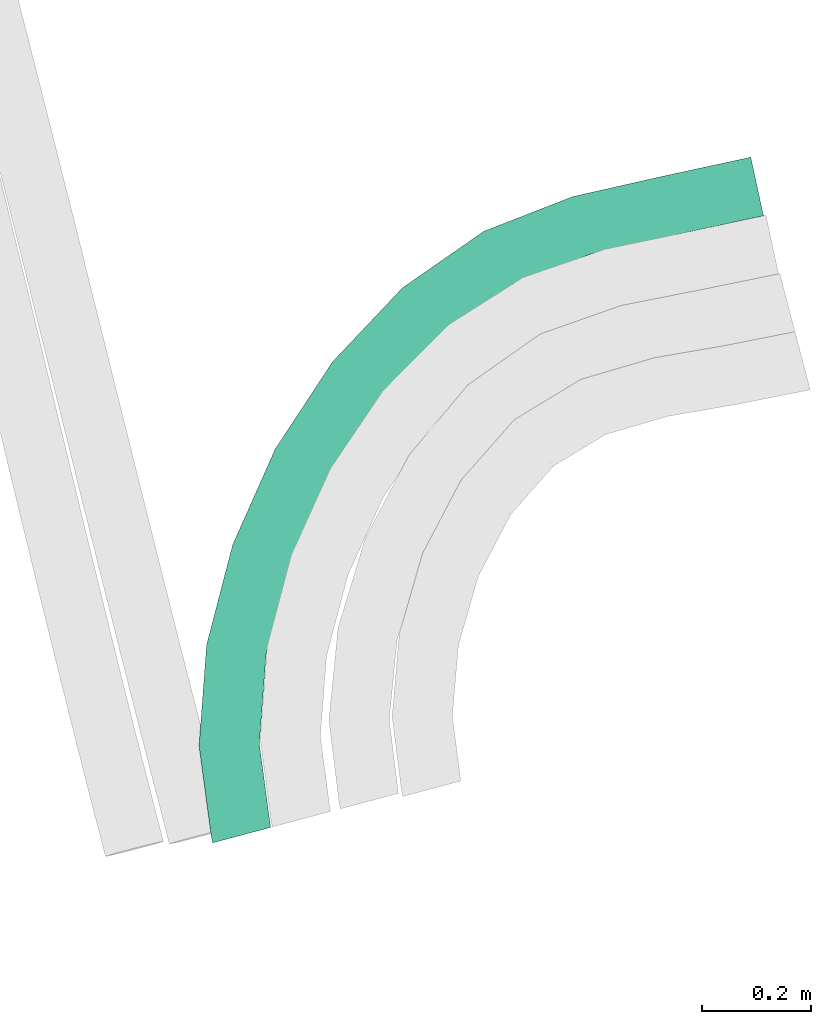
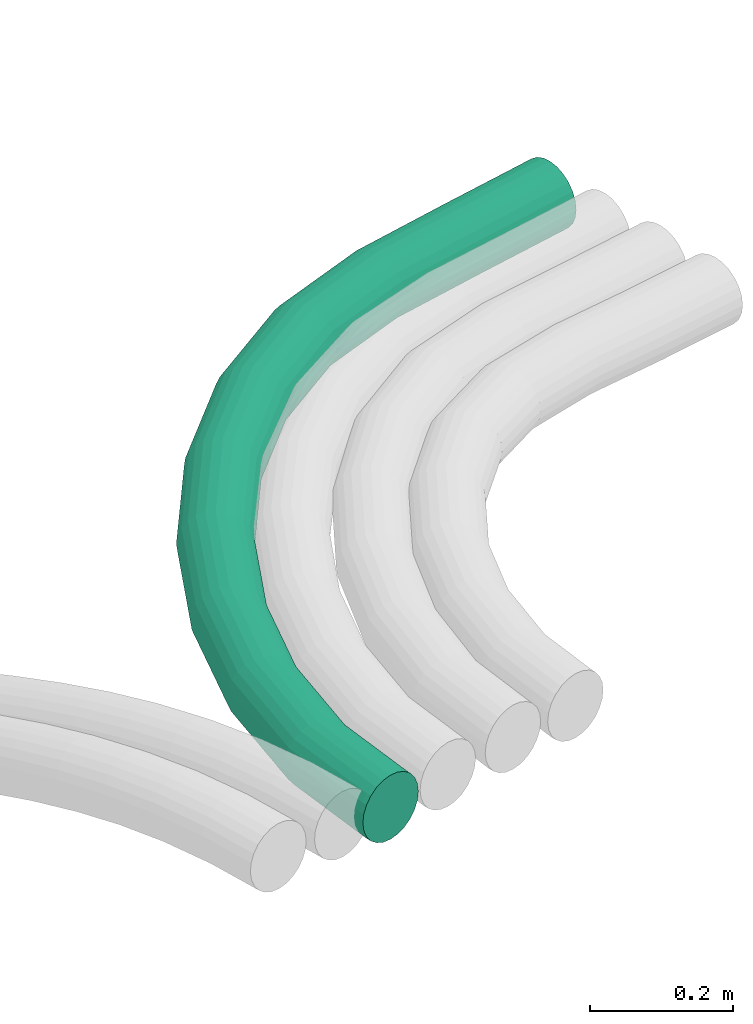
# One storey, part 2 of 6: 1 flow segment.
"""IFC2X3 building model written with IfcOpenShell, lengths in centimetres."""

from ifc_helpers import new_model, entity, si_unit, converted_unit, derived_unit, direction, frame, origin, place, context, subcontext, project, spatial, faceted_brep, type_object, element, save


model = new_model("IFC2X3")

# Units and contexts
model_context = context("Model", 3, precision=0.001, world=origin(), true_north=direction((6.12303176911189e-17, 1.0)))
body_context = subcontext(model_context, "Body", "Model", "MODEL_VIEW")
ifc_project = project(units=[si_unit("LENGTHUNIT", "METRE", prefix="CENTI"), si_unit("AREAUNIT", "SQUARE_METRE"), si_unit("VOLUMEUNIT", "CUBIC_METRE"), converted_unit("PLANEANGLEUNIT", "DEGREE", entity("IfcRatioMeasure", 0.0174532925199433), si_unit("PLANEANGLEUNIT", "RADIAN"), dimensions=[0, 0, 0, 0, 0, 0, 0]), si_unit("MASSUNIT", "GRAM", prefix="KILO"), derived_unit("MASSDENSITYUNIT", [(si_unit("MASSUNIT", "GRAM", prefix="KILO"), 1), (si_unit("LENGTHUNIT", "METRE"), -3)]), si_unit("TIMEUNIT", "SECOND"), si_unit("FREQUENCYUNIT", "HERTZ"), si_unit("THERMODYNAMICTEMPERATUREUNIT", "DEGREE_CELSIUS"), derived_unit("THERMALTRANSMITTANCEUNIT", [(si_unit("MASSUNIT", "GRAM", prefix="KILO"), 1), (si_unit("THERMODYNAMICTEMPERATUREUNIT", "KELVIN"), -1), (si_unit("TIMEUNIT", "SECOND"), -3)]), derived_unit("VOLUMETRICFLOWRATEUNIT", [(si_unit("LENGTHUNIT", "METRE"), 3), (si_unit("TIMEUNIT", "SECOND"), -1)]), si_unit("ELECTRICCURRENTUNIT", "AMPERE"), si_unit("ELECTRICVOLTAGEUNIT", "VOLT"), si_unit("POWERUNIT", "WATT"), si_unit("FORCEUNIT", "NEWTON"), si_unit("ILLUMINANCEUNIT", "LUX"), si_unit("LUMINOUSFLUXUNIT", "LUMEN"), si_unit("LUMINOUSINTENSITYUNIT", "CANDELA"), derived_unit("USERDEFINED", [(si_unit("MASSUNIT", "GRAM", prefix="KILO"), -1), (si_unit("LENGTHUNIT", "METRE"), -2), (si_unit("TIMEUNIT", "SECOND"), 3), (si_unit("LUMINOUSFLUXUNIT", "LUMEN"), 1)]), derived_unit("LINEARVELOCITYUNIT", [(si_unit("LENGTHUNIT", "METRE"), 1), (si_unit("TIMEUNIT", "SECOND"), -1)]), si_unit("PRESSUREUNIT", "PASCAL"), derived_unit("USERDEFINED", [(si_unit("LENGTHUNIT", "METRE"), -2), (si_unit("MASSUNIT", "GRAM", prefix="KILO"), 1), (si_unit("TIMEUNIT", "SECOND"), -2)])], contexts=[model_context])

# Site, building, storey
site_placement = place(None, origin())
site = spatial("IfcSite", under=ifc_project, at=site_placement, Name="Default", CompositionType="ELEMENT")
building_placement = place(site_placement, origin())
building = spatial("IfcBuilding", under=site, at=building_placement, Name="CAGE 03", CompositionType="ELEMENT")
storey_placement = place(building_placement, frame((0.0, 0.0, -23.0)))
storey = spatial("IfcBuildingStorey", under=building, at=storey_placement, Name="+3.77", CompositionType="ELEMENT", Elevation=-23.0000000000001)

# Flow segment
duct_segment_type = type_object("IfcDuctSegmentType", Name="Gaine flexible circulaire:Flex - Round", PredefinedType="FLEXIBLESEGMENT")
flow_segment_placement = place(storey_placement, frame((11579.2379252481, 3539.1954442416, -79.1595272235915)))
element("IfcFlowSegment", 1, at=flow_segment_placement, inside=storey, type_object=duct_segment_type, Name="Gaine flexible circulaire:Flex - Round", ObjectType="Gaine flexible circulaire:Flex - Round", context=body_context, shape_type="Brep", body=[
    faceted_brep([(4.22902549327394, 0.573686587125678, 9.54861452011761), (3.38435360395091, 0.348971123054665, 8.4095272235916), (2.85337065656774, 0.207709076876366, 7.08303197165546), (2.67226226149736, 0.15952722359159, 5.6595272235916), (2.85337065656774, 0.207709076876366, 4.23602247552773), (3.38435360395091, 0.348971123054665, 2.9095272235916), (4.22902549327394, 0.573686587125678, 1.77043992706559), (5.32982333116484, 0.866541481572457, 0.896387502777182), (6.61172956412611, 1.20757822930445, 0.346935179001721), (7.98738440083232, 1.57355573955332, 0.159527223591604), (9.36303923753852, 1.9395332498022, 0.346935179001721), (10.6449454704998, 2.28056999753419, 0.896387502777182), (11.7457433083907, 2.57342489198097, 1.77043992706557), (12.5904151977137, 2.79814035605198, 2.90952722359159), (13.1213981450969, 2.93940240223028, 4.23602247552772), (13.3025065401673, 2.98758425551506, 5.65952722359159), (13.1213981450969, 2.93940240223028, 7.08303197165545), (12.5904151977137, 2.79814035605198, 8.40952722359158), (11.7457433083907, 2.57342489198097, 9.5486145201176), (10.6449454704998, 2.28056999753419, 10.422666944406), (9.36303923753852, 1.9395332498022, 10.9721192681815), (7.98738440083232, 1.57355573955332, 11.1595272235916), (6.61172956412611, 1.20757822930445, 10.9721192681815), (5.32982333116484, 0.866541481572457, 10.422666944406), (2.43871392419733, 1.03740056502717, 5.65952722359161), (2.62286935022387, 1.07412908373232, 4.2360224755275), (3.16278574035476, 1.1818116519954, 2.90952722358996), (4.02166868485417, 1.35310988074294, 1.77043992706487), (5.14098673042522, 1.57635007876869, 0.896387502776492), (6.44446020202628, 1.83631879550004, 0.346935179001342), (7.84325953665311, 2.11529959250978, 0.159527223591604), (9.24205887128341, 2.39428038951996, 0.346935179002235), (10.5455323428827, 2.65424910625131, 0.896387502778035), (11.6648503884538, 2.87748930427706, 1.77043992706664), (13.0636497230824, 3.15647010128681, 4.23602247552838), (13.2478051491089, 3.19319861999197, 5.65952722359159), (12.5237333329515, 3.04878753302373, 2.90952722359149), (12.5237333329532, 3.04878753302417, 8.40952722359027), (11.6648503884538, 2.87748930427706, 9.54861452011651), (13.0636497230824, 3.15647010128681, 7.08303197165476), (9.24205887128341, 2.39428038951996, 10.9721192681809), (7.84325953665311, 2.11529959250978, 11.1595272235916), (10.5455323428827, 2.65424910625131, 10.4226669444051), (6.44446020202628, 1.83631879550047, 10.9721192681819), (5.14098673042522, 1.57635007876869, 10.4226669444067), (4.02166868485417, 1.35310988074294, 9.54861452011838), (3.16278574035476, 1.1818116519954, 8.40952722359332), (2.62286935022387, 1.07412908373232, 7.08303197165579), (101.275036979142, 125.828629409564, 5.65952722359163), (101.31472021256, 125.645471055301, 7.08303197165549), (101.431065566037, 125.10847793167, 8.40952722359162), (101.616144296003, 124.254245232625, 9.54861452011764), (101.857343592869, 123.140987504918, 10.422666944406), (102.138226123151, 121.844571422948, 10.9721192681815), (102.439650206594, 120.453345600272, 11.1595272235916), (102.741074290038, 119.062119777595, 10.9721192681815), (103.02195682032, 117.765703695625, 10.422666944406), (103.263156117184, 116.652445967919, 9.54861452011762), (103.44823484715, 115.798213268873, 8.40952722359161), (103.564580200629, 115.261220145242, 7.08303197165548), (103.604263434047, 115.078061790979, 5.65952722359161), (103.564580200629, 115.261220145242, 4.23602247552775), (103.44823484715, 115.798213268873, 2.90952722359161), (103.263156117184, 116.652445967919, 1.7704399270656), (103.02195682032, 117.765703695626, 0.896387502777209), (102.741074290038, 119.062119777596, 0.346935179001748), (102.439650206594, 120.453345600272, 0.159527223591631), (102.138226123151, 121.844571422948, 0.346935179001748), (101.857343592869, 123.140987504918, 0.896387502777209), (101.616144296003, 124.254245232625, 1.77043992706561), (101.431065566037, 125.10847793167, 2.90952722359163), (101.31472021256, 125.645471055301, 4.23602247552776), (0.15952722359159, 17.9822303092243, 5.65952722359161), (0.347878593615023, 17.9877636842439, 4.23602247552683), (0.90009686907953, 18.0039867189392, 2.90952722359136), (1.7785492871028, 18.0297938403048, 1.77043992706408), (2.923370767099, 18.0634263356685, 0.896387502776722), (4.25654361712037, 18.1025922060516, 0.346935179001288), (5.68721431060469, 18.1446223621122, 0.159527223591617), (7.11788500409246, 18.1866525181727, 0.346935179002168), (8.4510578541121, 18.2258183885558, 0.89638750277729), (9.59587933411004, 18.2594508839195, 1.77043992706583), (10.4743317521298, 18.2852580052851, 2.90952722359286), (11.0265500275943, 18.30148103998, 4.23602247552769), (11.2149013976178, 18.3070144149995, 5.6595272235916), (11.0265500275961, 18.30148103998, 7.08303197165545), (10.4743317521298, 18.2852580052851, 8.4095272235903), (9.59587933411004, 18.2594508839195, 9.54861452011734), (7.11788500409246, 18.1866525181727, 10.9721192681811), (5.68721431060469, 18.1446223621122, 11.1595272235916), (8.45105785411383, 18.2258183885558, 10.422666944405), (4.25654361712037, 18.1025922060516, 10.9721192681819), (2.923370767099, 18.0634263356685, 10.4226669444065), (1.7785492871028, 18.0297938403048, 9.54861452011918), (0.90009686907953, 18.0039867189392, 8.40952722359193), (0.347878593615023, 17.9877636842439, 7.08303197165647), (1.54788863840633, 36.4676848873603, 5.65952722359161), (1.73350290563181, 36.4367748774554, 4.23602247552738), (2.27769640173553, 36.3461513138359, 2.90952722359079), (3.14338323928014, 36.2019900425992, 1.77043992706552), (4.27156829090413, 36.0141154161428, 0.896387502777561), (5.5853676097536, 35.7953307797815, 0.346935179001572), (6.99524794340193, 35.5605459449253, 0.159527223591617), (8.40512827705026, 35.325761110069, 0.346935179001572), (9.71892759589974, 35.1069764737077, 0.896387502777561), (10.8471126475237, 34.9191018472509, 1.77043992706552), (11.7127994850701, 34.7749405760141, 2.90952722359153), (12.2569929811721, 34.6843170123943, 4.23602247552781), (12.4426072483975, 34.6534070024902, 5.6595272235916), (12.2569929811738, 34.6843170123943, 7.08303197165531), (11.7127994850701, 34.7749405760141, 8.40952722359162), (10.8471126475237, 34.9191018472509, 9.54861452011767), (8.40512827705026, 35.325761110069, 10.9721192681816), (6.99524794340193, 35.5605459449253, 11.1595272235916), (9.71892759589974, 35.1069764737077, 10.4226669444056), (5.5853676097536, 35.7953307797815, 10.9721192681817), (4.27156829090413, 36.0141154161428, 10.4226669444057), (3.14338323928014, 36.2019900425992, 9.54861452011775), (2.27769640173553, 36.3461513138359, 8.40952722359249), (1.73350290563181, 36.4367748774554, 7.0830319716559), (6.34002175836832, 54.846509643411, 5.65952722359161), (6.51749026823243, 54.7843589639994, 4.23602247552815), (7.037801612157, 54.6021423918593, 2.90952722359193), (7.86549743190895, 54.3122776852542, 1.77043992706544), (8.94417162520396, 53.9345186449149, 0.896387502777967), (10.2003143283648, 53.4946089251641, 0.346935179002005), (11.5483214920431, 53.022527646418, 0.159527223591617), (12.8963286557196, 52.5504463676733, 0.346935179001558), (14.1524713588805, 52.1105366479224, 0.896387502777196), (15.2311455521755, 51.7327776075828, 1.77043992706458), (16.0588413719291, 51.4429129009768, 2.90952722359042), (16.5791527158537, 51.2606963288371, 4.23602247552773), (16.7566212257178, 51.1985456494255, 5.6595272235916), (16.5791527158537, 51.2606963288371, 7.0830319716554), (16.0588413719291, 51.4429129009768, 8.40952722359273), (15.2311455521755, 51.7327776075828, 9.54861452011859), (12.8963286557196, 52.5504463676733, 10.9721192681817), (11.5483214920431, 53.022527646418, 11.1595272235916), (14.1524713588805, 52.1105366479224, 10.422666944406), (10.2003143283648, 53.4946089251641, 10.9721192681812), (8.94417162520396, 53.9345186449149, 10.4226669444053), (7.86549743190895, 54.3122776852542, 9.54861452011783), (7.037801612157, 54.6021423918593, 8.40952722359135), (6.51749026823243, 54.7843589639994, 7.08303197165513), (14.1402244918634, 72.3766171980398, 5.65952722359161), (14.30524730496, 72.2864961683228, 4.23602247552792), (14.789069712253, 72.0222746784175, 2.90952722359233), (15.5587200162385, 71.6019589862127, 1.77043992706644), (16.5617478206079, 71.0541929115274, 0.896387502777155), (17.7297984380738, 70.4163058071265, 0.346935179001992), (18.9832711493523, 69.7317686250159, 0.159527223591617), (20.2367438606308, 69.0472314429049, 0.346935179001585), (21.4047944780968, 68.4093443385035, 0.896387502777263), (22.4078222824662, 67.8615782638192, 1.77043992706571), (23.1774725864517, 67.4412625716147, 2.90952722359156), (23.6612949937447, 67.177041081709, 4.23602247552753), (23.8263178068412, 67.0869200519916, 5.6595272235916), (23.6612949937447, 67.177041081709, 7.08303197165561), (23.1774725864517, 67.4412625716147, 8.4095272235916), (22.4078222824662, 67.8615782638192, 9.54861452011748), (20.2367438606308, 69.0472314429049, 10.9721192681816), (18.9832711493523, 69.7317686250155, 11.1595272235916), (21.4047944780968, 68.4093443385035, 10.4226669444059), (17.7297984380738, 70.4163058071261, 10.9721192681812), (16.5617478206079, 71.0541929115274, 10.4226669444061), (15.5587200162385, 71.6019589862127, 9.54861452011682), (14.789069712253, 72.0222746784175, 8.40952722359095), (14.30524730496, 72.2864961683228, 7.08303197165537), (24.6064278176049, 88.3148302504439, 5.65952722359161), (24.7539862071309, 88.1981139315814, 4.23602247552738), (25.1866055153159, 87.8559189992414, 2.90952722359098), (25.8748034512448, 87.3115654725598, 1.7704399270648), (26.7716804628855, 86.6021501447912, 0.896387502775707), (27.8161158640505, 85.7760184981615, 0.346935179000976), (28.9369331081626, 84.8894700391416, 0.159527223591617), (30.0577503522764, 84.00292158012, 0.346935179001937), (31.1021857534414, 83.1767899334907, 0.896387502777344), (31.9990627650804, 82.467374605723, 1.77043992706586), (32.6872607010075, 81.9230210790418, 2.9095272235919), (33.1198800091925, 81.5808261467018, 4.2360224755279), (33.2674383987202, 81.4641098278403, 5.6595272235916), (33.1198800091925, 81.5808261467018, 7.08303197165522), (32.6872607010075, 81.9230210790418, 8.40952722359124), (31.9990627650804, 82.467374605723, 9.54861452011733), (30.0577503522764, 84.00292158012, 10.9721192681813), (28.9369331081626, 84.8894700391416, 11.1595272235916), (31.1021857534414, 83.1767899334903, 10.4226669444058), (27.8161158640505, 85.7760184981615, 10.9721192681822), (26.7716804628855, 86.6021501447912, 10.4226669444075), (25.8748034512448, 87.3115654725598, 9.54861452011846), (25.1866055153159, 87.8559189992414, 8.40952722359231), (24.7539862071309, 88.1981139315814, 7.0830319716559), (37.440640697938, 101.888995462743, 5.65952722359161), (37.5634952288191, 101.746150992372, 4.23602247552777), (37.9236864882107, 101.327352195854, 2.90952722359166), (38.4966680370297, 100.661139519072, 1.7704399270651), (39.243392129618, 99.7929142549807, 0.896387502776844), (40.1129707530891, 98.7818445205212, 0.346935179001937), (41.046143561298, 97.6968330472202, 0.159527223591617), (41.9793163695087, 96.6118215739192, 0.346935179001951), (42.8488949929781, 95.6007518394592, 0.896387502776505), (43.595619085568, 94.7325265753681, 1.77043992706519), (44.1686006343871, 94.0663138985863, 2.90952722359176), (44.5287918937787, 93.647515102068, 4.236022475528), (44.6516464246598, 93.5046706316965, 5.6595272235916), (44.5287918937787, 93.647515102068, 7.08303197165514), (44.1686006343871, 94.0663138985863, 8.40952722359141), (43.595619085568, 94.7325265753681, 9.54861452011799), (41.9793163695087, 96.6118215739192, 10.9721192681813), (41.046143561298, 97.6968330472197, 11.1595272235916), (42.8488949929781, 95.6007518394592, 10.4226669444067), (40.1129707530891, 98.7818445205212, 10.9721192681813), (39.243392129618, 99.7929142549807, 10.4226669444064), (38.4966680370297, 100.661139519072, 9.54861452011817), (37.9236864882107, 101.327352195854, 8.40952722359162), (37.5634952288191, 101.746150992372, 7.08303197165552), (52.343145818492, 112.242610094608, 5.65952722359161), (52.4318951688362, 112.076070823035, 4.2360224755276), (52.6920950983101, 111.587802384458, 2.90952722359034), (53.1060134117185, 110.811079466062, 1.77043992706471), (53.6454422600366, 109.798834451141, 0.896387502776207), (54.2736204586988, 108.620050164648, 0.346935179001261), (54.9477387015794, 107.355058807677, 0.159527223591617), (55.6218569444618, 106.090067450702, 0.34693517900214), (56.250035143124, 104.91128316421, 0.89638750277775), (56.7894639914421, 103.89903814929, 1.77043992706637), (57.2033823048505, 103.122315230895, 2.90952722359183), (57.4635822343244, 102.634046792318, 4.23602247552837), (57.5523315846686, 102.467507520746, 5.6595272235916), (57.4635822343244, 102.634046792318, 7.08303197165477), (57.2033823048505, 103.122315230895, 8.40952722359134), (56.7894639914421, 103.899038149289, 9.54861452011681), (55.6218569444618, 106.090067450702, 10.9721192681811), (54.9477387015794, 107.355058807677, 11.1595272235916), (56.250035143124, 104.91128316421, 10.4226669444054), (54.2736204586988, 108.620050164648, 10.972119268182), (53.6454422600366, 109.798834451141, 10.422666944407), (53.1060134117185, 110.811079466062, 9.54861452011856), (52.6920950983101, 111.587802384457, 8.40952722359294), (52.4318951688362, 112.076070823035, 7.08303197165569), (68.6315996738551, 118.598687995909, 5.65952722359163), (68.6866441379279, 118.418996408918, 4.236022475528), (68.8480263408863, 117.892167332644, 2.90952722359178), (69.1047483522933, 117.054103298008, 1.77043992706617), (69.4393149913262, 115.961916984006, 0.89638750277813), (69.8289260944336, 114.690039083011, 0.346935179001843), (70.247030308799, 113.3251459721, 0.159527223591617), (70.6651345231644, 111.960252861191, 0.346935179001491), (71.0547456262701, 110.688374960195, 0.896387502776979), (71.389312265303, 109.596188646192, 1.77043992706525), (71.64603427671, 108.758124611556, 2.90952722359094), (71.8074164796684, 108.231295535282, 4.23602247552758), (71.8624609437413, 108.05160394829, 5.6595272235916), (71.8074164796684, 108.231295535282, 7.08303197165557), (71.64603427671, 108.758124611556, 8.40952722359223), (71.389312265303, 109.596188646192, 9.54861452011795), (70.6651345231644, 111.960252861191, 10.9721192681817), (70.247030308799, 113.3251459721, 11.1595272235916), (71.0547456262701, 110.688374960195, 10.4226669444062), (69.8289260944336, 114.690039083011, 10.9721192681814), (69.4393149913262, 115.961916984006, 10.4226669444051), (69.1047483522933, 117.054103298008, 9.54861452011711), (68.8480263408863, 117.892167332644, 8.40952722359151), (68.6866441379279, 118.418996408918, 7.08303197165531), (85.1306145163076, 122.330766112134, 5.65952722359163), (85.1711305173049, 122.147788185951, 4.23602247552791), (85.2899174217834, 121.611324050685, 2.90952722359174), (85.4788800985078, 120.757932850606, 1.7704399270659), (85.7251410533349, 119.645771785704, 0.89638750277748), (86.0119180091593, 118.350632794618, 0.346935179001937), (86.319667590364, 116.960777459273, 0.159527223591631), (86.6274171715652, 115.570922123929, 0.34693517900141), (86.9141941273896, 114.275783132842, 0.896387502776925), (87.1604550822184, 113.16362206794, 1.77043992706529), (87.3494177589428, 112.31023086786, 2.90952722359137), (87.4682046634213, 111.773766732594, 4.23602247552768), (87.5087206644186, 111.590788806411, 5.65952722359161), (87.4682046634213, 111.773766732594, 7.08303197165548), (87.3494177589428, 112.31023086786, 8.40952722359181), (87.1604550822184, 113.163622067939, 9.54861452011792), (86.6274171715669, 115.570922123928, 10.9721192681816), (86.319667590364, 116.960777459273, 11.1595272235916), (86.9141941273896, 114.275783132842, 10.4226669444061), (86.0119180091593, 118.350632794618, 10.9721192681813), (85.7251410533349, 119.645771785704, 10.4226669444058), (85.4788800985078, 120.757932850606, 9.54861452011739), (85.2899174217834, 121.611324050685, 8.40952722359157), (85.1711305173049, 122.147788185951, 7.08303197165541)], [[[0, 1, 2, 3, 4, 5, 6, 7, 8, 9, 10, 11, 12, 13, 14, 15, 16, 17, 18, 19, 20, 21, 22, 23]], [[3, 24, 25, 4]], [[4, 25, 26, 5]], [[5, 26, 27, 6]], [[7, 28, 29, 8]], [[8, 29, 30, 9]], [[6, 27, 28, 7]], [[31, 32, 11, 10]], [[30, 31, 10, 9]], [[11, 32, 33, 12]], [[34, 35, 15, 14]], [[36, 34, 14, 13]], [[12, 33, 36, 13]], [[17, 37, 38, 18]], [[39, 37, 17, 16]], [[15, 35, 39, 16]], [[40, 41, 21, 20]], [[42, 40, 20, 19]], [[38, 42, 19, 18]], [[23, 22, 43, 44]], [[0, 23, 44, 45]], [[21, 41, 43, 22]], [[2, 1, 46, 47]], [[3, 2, 47, 24]], [[45, 46, 1, 0]], [[48, 49, 50, 51, 52, 53, 54, 55, 56, 57, 58, 59, 60, 61, 62, 63, 64, 65, 66, 67, 68, 69, 70, 71]], [[24, 72, 73, 25]], [[25, 73, 74, 26]], [[26, 74, 75, 27]], [[27, 75, 76, 28]], [[28, 76, 77, 29]], [[78, 30, 29, 77]], [[79, 80, 32, 31]], [[78, 79, 31, 30]], [[81, 33, 32, 80]], [[82, 83, 34, 36]], [[82, 36, 33, 81]], [[84, 35, 34, 83]], [[85, 86, 37, 39]], [[84, 85, 39, 35]], [[38, 37, 86, 87]], [[88, 89, 41, 40]], [[90, 88, 40, 42]], [[87, 90, 42, 38]], [[43, 41, 89, 91]], [[44, 43, 91, 92]], [[45, 44, 92, 93]], [[47, 46, 94, 95]], [[24, 47, 95, 72]], [[93, 94, 46, 45]], [[73, 72, 96, 97]], [[74, 73, 97, 98]], [[98, 99, 75, 74]], [[76, 75, 99, 100]], [[77, 76, 100, 101]], [[78, 77, 101, 102]], [[103, 104, 80, 79]], [[102, 103, 79, 78]], [[81, 80, 104, 105]], [[106, 107, 83, 82]], [[105, 106, 82, 81]], [[84, 83, 107, 108]], [[109, 110, 86, 85]], [[108, 109, 85, 84]], [[111, 87, 86, 110]], [[112, 113, 89, 88]], [[114, 112, 88, 90]], [[114, 90, 87, 111]], [[89, 113, 115, 91]], [[91, 115, 116, 92]], [[117, 93, 92, 116]], [[94, 118, 119, 95]], [[95, 119, 96, 72]], [[118, 94, 93, 117]], [[97, 96, 120, 121]], [[98, 97, 121, 122]], [[122, 123, 99, 98]], [[100, 99, 123, 124]], [[101, 100, 124, 125]], [[102, 101, 125, 126]], [[127, 128, 104, 103]], [[126, 127, 103, 102]], [[105, 104, 128, 129]], [[130, 131, 107, 106]], [[129, 130, 106, 105]], [[108, 107, 131, 132]], [[133, 134, 110, 109]], [[132, 133, 109, 108]], [[135, 111, 110, 134]], [[136, 137, 113, 112]], [[138, 136, 112, 114]], [[138, 114, 111, 135]], [[113, 137, 139, 115]], [[115, 139, 140, 116]], [[141, 117, 116, 140]], [[118, 142, 143, 119]], [[119, 143, 120, 96]], [[142, 118, 117, 141]], [[121, 120, 144, 145]], [[122, 121, 145, 146]], [[146, 147, 123, 122]], [[124, 123, 147, 148]], [[125, 124, 148, 149]], [[126, 125, 149, 150]], [[151, 152, 128, 127]], [[150, 151, 127, 126]], [[129, 128, 152, 153]], [[154, 155, 131, 130]], [[153, 154, 130, 129]], [[132, 131, 155, 156]], [[157, 158, 134, 133]], [[156, 157, 133, 132]], [[159, 135, 134, 158]], [[160, 161, 137, 136]], [[162, 160, 136, 138]], [[162, 138, 135, 159]], [[137, 161, 163, 139]], [[139, 163, 164, 140]], [[165, 141, 140, 164]], [[142, 166, 167, 143]], [[143, 167, 144, 120]], [[166, 142, 141, 165]], [[144, 168, 169, 145]], [[145, 169, 170, 146]], [[146, 170, 171, 147]], [[147, 171, 172, 148]], [[148, 172, 173, 149]], [[174, 150, 149, 173]], [[175, 176, 152, 151]], [[174, 175, 151, 150]], [[177, 153, 152, 176]], [[178, 179, 155, 154]], [[178, 154, 153, 177]], [[180, 156, 155, 179]], [[181, 182, 158, 157]], [[180, 181, 157, 156]], [[159, 158, 182, 183]], [[184, 185, 161, 160]], [[186, 184, 160, 162]], [[183, 186, 162, 159]], [[163, 161, 185, 187]], [[164, 163, 187, 188]], [[165, 164, 188, 189]], [[167, 166, 190, 191]], [[144, 167, 191, 168]], [[189, 190, 166, 165]], [[168, 192, 193, 169]], [[169, 193, 194, 170]], [[170, 194, 195, 171]], [[171, 195, 196, 172]], [[172, 196, 197, 173]], [[198, 174, 173, 197]], [[199, 200, 176, 175]], [[198, 199, 175, 174]], [[201, 177, 176, 200]], [[202, 203, 179, 178]], [[202, 178, 177, 201]], [[204, 180, 179, 203]], [[205, 206, 182, 181]], [[204, 205, 181, 180]], [[183, 182, 206, 207]], [[208, 209, 185, 184]], [[210, 208, 184, 186]], [[207, 210, 186, 183]], [[187, 185, 209, 211]], [[188, 187, 211, 212]], [[189, 188, 212, 213]], [[191, 190, 214, 215]], [[168, 191, 215, 192]], [[213, 214, 190, 189]], [[192, 216, 217, 193]], [[193, 217, 218, 194]], [[194, 218, 219, 195]], [[195, 219, 220, 196]], [[196, 220, 221, 197]], [[222, 198, 197, 221]], [[223, 224, 200, 199]], [[222, 223, 199, 198]], [[225, 201, 200, 224]], [[226, 227, 203, 202]], [[226, 202, 201, 225]], [[228, 204, 203, 227]], [[229, 230, 206, 205]], [[228, 229, 205, 204]], [[207, 206, 230, 231]], [[232, 233, 209, 208]], [[234, 232, 208, 210]], [[231, 234, 210, 207]], [[211, 209, 233, 235]], [[212, 211, 235, 236]], [[213, 212, 236, 237]], [[215, 214, 238, 239]], [[192, 215, 239, 216]], [[237, 238, 214, 213]], [[217, 216, 240, 241]], [[218, 217, 241, 242]], [[242, 243, 219, 218]], [[220, 219, 243, 244]], [[221, 220, 244, 245]], [[222, 221, 245, 246]], [[247, 248, 224, 223]], [[246, 247, 223, 222]], [[225, 224, 248, 249]], [[250, 251, 227, 226]], [[249, 250, 226, 225]], [[228, 227, 251, 252]], [[253, 254, 230, 229]], [[252, 253, 229, 228]], [[255, 231, 230, 254]], [[256, 257, 233, 232]], [[258, 256, 232, 234]], [[258, 234, 231, 255]], [[233, 257, 259, 235]], [[235, 259, 260, 236]], [[261, 237, 236, 260]], [[238, 262, 263, 239]], [[239, 263, 240, 216]], [[262, 238, 237, 261]], [[241, 240, 264, 265]], [[242, 241, 265, 266]], [[266, 267, 243, 242]], [[244, 243, 267, 268]], [[245, 244, 268, 269]], [[246, 245, 269, 270]], [[271, 272, 248, 247]], [[270, 271, 247, 246]], [[249, 248, 272, 273]], [[274, 275, 251, 250]], [[273, 274, 250, 249]], [[252, 251, 275, 276]], [[277, 278, 254, 253]], [[276, 277, 253, 252]], [[279, 255, 254, 278]], [[280, 281, 257, 256]], [[282, 280, 256, 258]], [[282, 258, 255, 279]], [[257, 281, 283, 259]], [[259, 283, 284, 260]], [[285, 261, 260, 284]], [[262, 286, 287, 263]], [[263, 287, 264, 240]], [[286, 262, 261, 285]], [[71, 70, 266, 265]], [[48, 71, 265, 264]], [[70, 69, 267, 266]], [[269, 268, 68, 67]], [[270, 269, 67, 66]], [[69, 68, 268, 267]], [[271, 270, 66, 65]], [[272, 271, 65, 64]], [[273, 272, 64, 63]], [[275, 274, 62, 61]], [[276, 275, 61, 60]], [[63, 62, 274, 273]], [[276, 60, 59, 277]], [[277, 59, 58, 278]], [[57, 279, 278, 58]], [[282, 56, 55, 280]], [[280, 55, 54, 281]], [[56, 282, 279, 57]], [[281, 54, 53, 283]], [[283, 53, 52, 284]], [[51, 285, 284, 52]], [[286, 50, 49, 287]], [[287, 49, 48, 264]], [[50, 286, 285, 51]]]),
])

save(model, "model.ifc")
